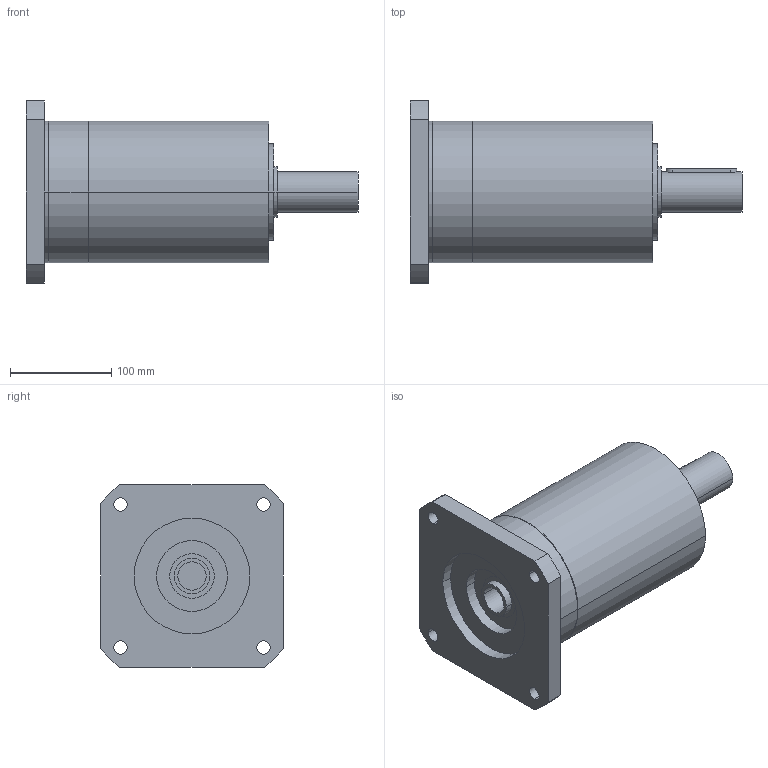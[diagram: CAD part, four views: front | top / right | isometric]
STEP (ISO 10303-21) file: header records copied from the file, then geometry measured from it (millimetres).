
FILE_DESCRIPTION(('CoCreate Modeling STEP Export'),'2;1');
FILE_NAME('GPR150_ig-9-12-16-20-28-35_40_B14_28_P09.stp','2014-08-19T17:03:49',(''),(''),'CoCreate Modeling STEP processor for AP214 (Solid Model)','CoCreate Modeling 16.00C 25-Feb-2009 (C) Parametric Technology GmbH','');
FILE_SCHEMA(('AUTOMOTIVE_DESIGN { 1 0 10303 214 1 1 1 1 }'));
Length unit declared in the file: millimetre
Products named in the file (2): GPR150_ig-9-12-16-20-28-35_40_B14_28_P09
Assembly tree (1 placements, depth 2):
  GPR150_ig-9-12-16-20-28-35_40_B14_28_P09
    GPR150_ig-9-12-16-20-28-35_40_B14_28_P09
Bounding box: 328 x 180 x 180 mm (x, y, z)
Volume: 3914204.9 mm3; surface area: 207303.1 mm2
Topology: 1 solids, 1 shells, 76 faces, 202 edges, 142 vertices
Faces by surface type: cylinder 46, plane 24, cone 6
Entity records: 2103 total; most frequent: CARTESIAN_POINT 406, ORIENTED_EDGE 400, DIRECTION 282, EDGE_CURVE 200, VERTEX_POINT 142, AXIS2_PLACEMENT_3D 106, EDGE_LOOP 100, FACE_OUTER_BOUND 76
